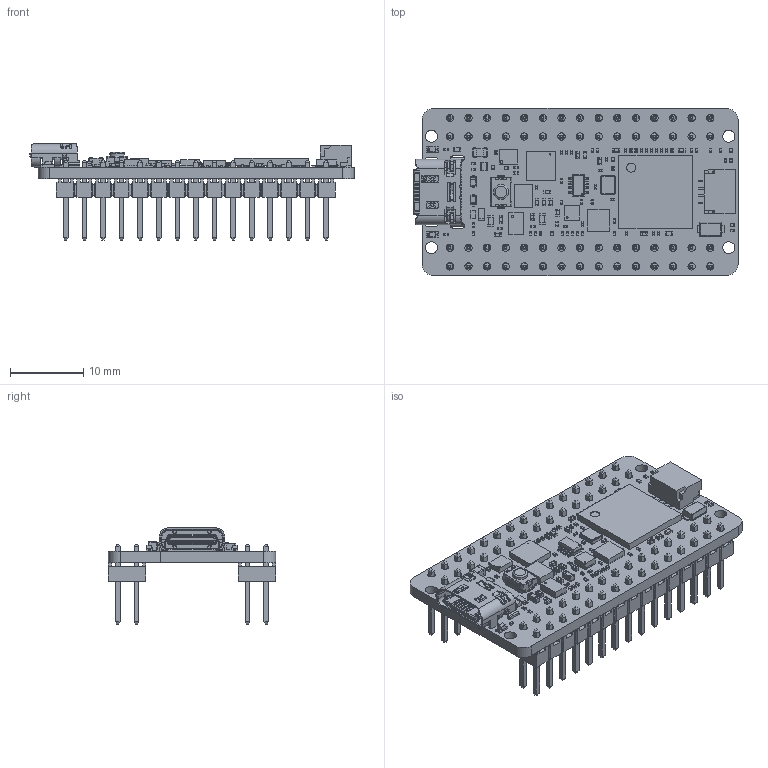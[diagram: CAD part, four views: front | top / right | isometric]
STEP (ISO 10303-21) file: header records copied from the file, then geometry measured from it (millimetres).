
FILE_DESCRIPTION(('Open CASCADE Model'),'2;1');
FILE_NAME('Open CASCADE Shape Model','2026-11-17T11:41:19',('Author'),( 'Open CASCADE'),'Open CASCADE STEP processor 7.5','Open CASCADE 7.5' ,'Unknown');
FILE_SCHEMA(('AUTOMOTIVE_DESIGN { 1 0 10303 214 1 1 1 1 }'));
Length unit declared in the file: millimetre
Products named in the file (181): PCB; Board; Open CASCADE STEP translator 7.5 4.1.1; R46; RES-0201; R45; U3; 7285035728; Open CASCADE STEP translator 7.5 9.1; Body; Open CASCADE STEP translator 7.5 9.2.1; Pin Shape; Open CASCADE STEP translator 7.5 9.3.1; C12; CAP-0402; C9; CAP-0201; R38; J4; TSW-115-07-G-D; TSW-115-07-G-D_body; T-1S6-07-TSW-1-07-15-D; J3; R42; R41; R40; R20; R39; R21; R19; C26; C51; Y1; ECS-160-12-36-AGN-TR; U7; DRB0008B; BODY-SON; FRAME-DRB0008B; FRAME-DRB0008B_3; FRAME-DRB0008B_4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
Assembly tree (428 placements, depth 5):
  PCB
    Board
      Open CASCADE STEP translator 7.5 4.1.1
    R46
      RES-0201
    R45
      RES-0201
    U3
      7285035728
        Open CASCADE STEP translator 7.5 9.1
        Body
          Open CASCADE STEP translator 7.5 9.2.1
        Pin Shape  x12
          Open CASCADE STEP translator 7.5 9.3.1
    C12
      CAP-0402
    C9
      CAP-0201
    R38
      RES-0201
    J4
      TSW-115-07-G-D
        TSW-115-07-G-D_body
        T-1S6-07-TSW-1-07-15-D
    J3
      TSW-115-07-G-D
        TSW-115-07-G-D_body
        T-1S6-07-TSW-1-07-15-D
    R42
      RES-0201
    R41
      RES-0201
    R40
      RES-0201
    R20
      RES-0201
    R39
      RES-0201
    R21
      RES-0201
    R19
      RES-0201
    C26
      CAP-0402
    C51
      CAP-0402
    Y1
      ECS-160-12-36-AGN-TR
    U7
      DRB0008B
        BODY-SON
        FRAME-DRB0008B
          FRAME-DRB0008B_3
          FRAME-DRB0008B_4
          FRAME-DRB0008B_5
          FRAME-DRB0008B_6
          FRAME-DRB0008B_7
          FRAME-DRB0008B_8
          FRAME-DRB0008B_9
          FRAME-DRB0008B_10
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Bounding box: 44.29 x 22.86 x 13.15 mm (x, y, z)
Volume: 2787.5 mm3; surface area: 7609.9 mm2
Topology: 348 solids, 351 shells, 9579 faces, 23969 edges, 14454 vertices
Faces by surface type: plane 6582, cylinder 2021, sphere 516, bspline 385, cone 46, torus 21, revolution 8
Full cylindrical faces by diameter (mm): 0.07 x2, 0.199 x1, 0.25 x1, 0.3 x1, 0.357 x2, 0.45 x2, 0.6 x1, 0.8 x1, 1 x60, 1.25 x1, 1.652 x4, 2 x1, 2.05 x1
Entity records: 149060 total; most frequent: CARTESIAN_POINT 26201, ORIENTED_EDGE 21774, DIRECTION 21489, EDGE_CURVE 10888, LINE 8951, VECTOR 8951, VERTEX_POINT 6847, AXIS2_PLACEMENT_3D 6265
